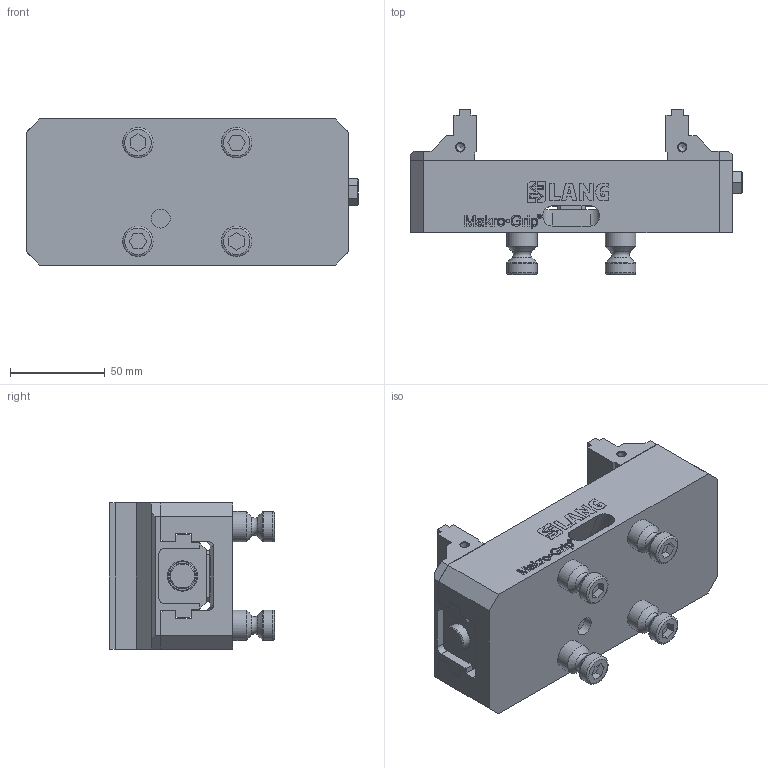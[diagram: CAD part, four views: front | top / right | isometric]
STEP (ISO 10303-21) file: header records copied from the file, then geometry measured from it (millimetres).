
FILE_DESCRIPTION (( 'STEP AP214' ), '1' );
FILE_NAME ('48160-77.STEP', '2020-02-04T13:55:14', ( '' ), ( '' ), 'SwSTEP 2.0', 'SolidWorks 2019', '' );
FILE_SCHEMA (( 'AUTOMOTIVE_DESIGN' ));
Length unit declared in the file: millimetre
Products named in the file (3): 48077-7720; Makro-Grip_48160-77; 48160-77
Assembly tree (3 placements, depth 2):
  48160-77
    Makro-Grip_48160-77
    48077-7720  x2
Bounding box: 175 x 87 x 77.2 mm (x, y, z)
Volume: 464442.2 mm3; surface area: 109700.3 mm2
Topology: 50 solids, 50 shells, 914 faces, 2322 edges, 1525 vertices
Faces by surface type: plane 625, bspline 192, cylinder 58, cone 27, torus 12
Full cylindrical faces by diameter (mm): 4.2 x4, 6.8 x4, 10 x1, 12 x8, 13.5 x1, 16 x12
Entity records: 42796 total; most frequent: CARTESIAN_POINT 13883, ORIENTED_EDGE 4172, DIRECTION 3105, EDGE_CURVE 2086, LINE 1571, VECTOR 1571, VERTEX_POINT 1409, EDGE_LOOP 963
